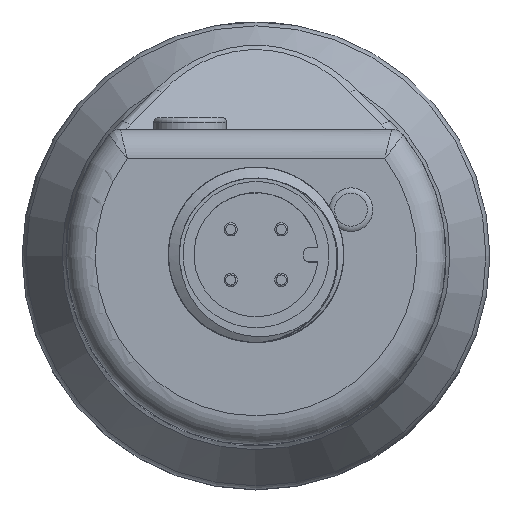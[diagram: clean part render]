
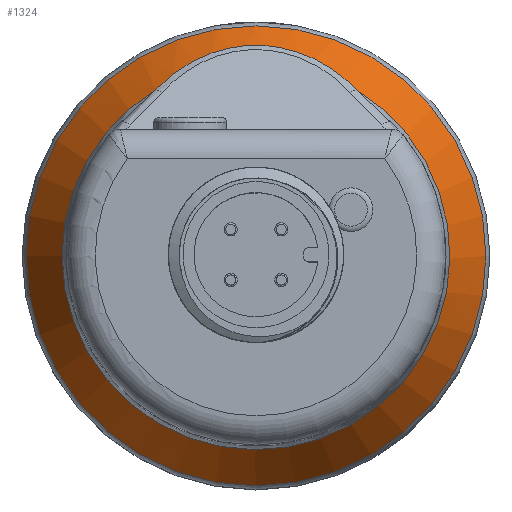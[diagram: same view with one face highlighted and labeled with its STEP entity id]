
A CAD part, top view. The second image highlights one B-rep face of the part: STEP entity #1324.
In plain terms, the highlighted conical face has half-angle 30 degrees and reference radius 13 mm.
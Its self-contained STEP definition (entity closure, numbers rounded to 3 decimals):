
#71=CONICAL_SURFACE('',#4508,13.,30.);
#152=B_SPLINE_CURVE_WITH_KNOTS('',3,(#8040,#8041,#8042,#8043,#8044,#8045),
 .UNSPECIFIED.,.F.,.F.,(4,2,4),(0.,0.5,1.),.UNSPECIFIED.);
#1078=FACE_BOUND('',#1947,.T.);
#1079=FACE_BOUND('',#1948,.T.);
#1324=ADVANCED_FACE('',(#1078,#1079),#71,.T.);
#1947=EDGE_LOOP('',(#2644,#2645));
#1948=EDGE_LOOP('',(#2646));
#2644=ORIENTED_EDGE('',*,*,#3634,.T.);
#2645=ORIENTED_EDGE('',*,*,#3846,.T.);
#2646=ORIENTED_EDGE('',*,*,#3847,.T.);
#3255=VERTEX_POINT('',#6004);
#3256=VERTEX_POINT('',#6005);
#3396=VERTEX_POINT('',#8047);
#3634=EDGE_CURVE('',#3255,#3256,#4149,.T.);
#3846=EDGE_CURVE('',#3256,#3255,#152,.T.);
#3847=EDGE_CURVE('',#3396,#3396,#4201,.T.);
#4149=CIRCLE('',#4362,13.268);
#4201=CIRCLE('',#4507,15.732);
#4362=AXIS2_PLACEMENT_3D('',#6003,#4887,#4888);
#4507=AXIS2_PLACEMENT_3D('',#8046,#5276,#5277);
#4508=AXIS2_PLACEMENT_3D('',#8048,#5278,#5279);
#4887=DIRECTION('',(0.,0.,-1.));
#4888=DIRECTION('',(1.,0.,0.));
#5276=DIRECTION('',(0.,0.,1.));
#5277=DIRECTION('',(-1.,0.,0.));
#5278=DIRECTION('',(0.,0.,-1.));
#5279=DIRECTION('',(-1.,0.,0.));
#6003=CARTESIAN_POINT('',(0.,0.,14.836));
#6004=CARTESIAN_POINT('',(6.871,11.351,14.836));
#6005=CARTESIAN_POINT('',(-6.871,11.351,14.836));
#8040=CARTESIAN_POINT('',(-6.871,11.351,14.836));
#8041=CARTESIAN_POINT('',(-4.963,13.397,13.515));
#8042=CARTESIAN_POINT('',(-2.317,14.41,12.854));
#8043=CARTESIAN_POINT('',(2.291,14.417,12.849));
#8044=CARTESIAN_POINT('',(4.956,13.404,13.511));
#8045=CARTESIAN_POINT('',(6.871,11.351,14.836));
#8046=CARTESIAN_POINT('',(0.,0.,10.568));
#8047=CARTESIAN_POINT('',(-15.732,0.,10.568));
#8048=CARTESIAN_POINT('',(0.,0.,15.3));
